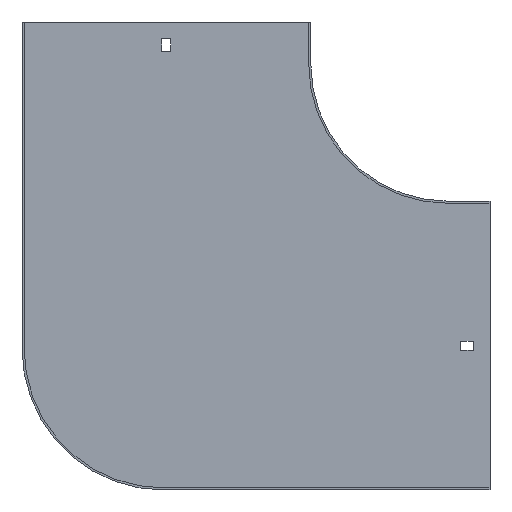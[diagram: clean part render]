
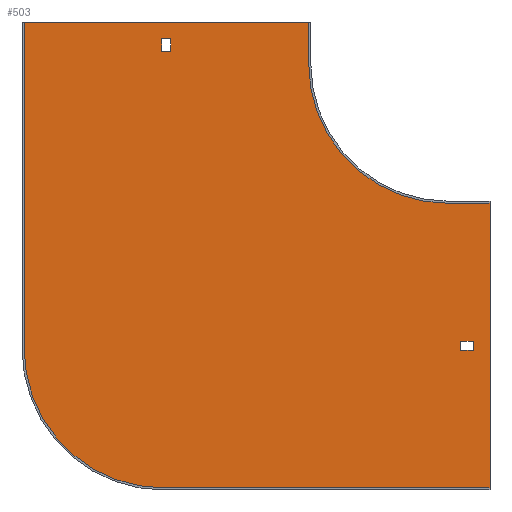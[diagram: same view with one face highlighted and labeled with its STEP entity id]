
A CAD part, front view. The second image highlights one B-rep face of the part: STEP entity #503.
In plain terms, the highlighted planar face has unit normal (0, -1, 0).
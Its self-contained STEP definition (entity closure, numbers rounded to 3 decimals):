
#6 = EDGE_CURVE ( 'NONE', #360, #702, #221, .T. ) ;
#18 = ORIENTED_EDGE ( 'NONE', *, *, #346, .T. ) ;
#29 = VERTEX_POINT ( 'NONE', #58 ) ;
#34 = VERTEX_POINT ( 'NONE', #779 ) ;
#37 = EDGE_CURVE ( 'NONE', #861, #521, #113, .T. ) ;
#39 = ORIENTED_EDGE ( 'NONE', *, *, #659, .F. ) ;
#41 = EDGE_CURVE ( 'NONE', #597, #861, #153, .T. ) ;
#48 = LINE ( 'NONE', #581, #718 ) ;
#56 = DIRECTION ( 'NONE',  ( 1., 0., 0. ) ) ;
#58 = CARTESIAN_POINT ( 'NONE',  ( -204., -1.5, -304. ) ) ;
#65 = ORIENTED_EDGE ( 'NONE', *, *, #569, .F. ) ;
#66 = EDGE_LOOP ( 'NONE', ( #616, #88, #293, #332 ) ) ;
#76 = DIRECTION ( 'NONE',  ( 0., 0., 1. ) ) ;
#88 = ORIENTED_EDGE ( 'NONE', *, *, #619, .F. ) ;
#90 = CARTESIAN_POINT ( 'NONE',  ( -305.5, -1.5, 30. ) ) ;
#96 = ORIENTED_EDGE ( 'NONE', *, *, #37, .F. ) ;
#107 = DIRECTION ( 'NONE',  ( 0., 0., -1. ) ) ;
#110 = VECTOR ( 'NONE', #76, 1000. ) ;
#113 = LINE ( 'NONE', #838, #774 ) ;
#135 = VERTEX_POINT ( 'NONE', #804 ) ;
#142 = DIRECTION ( 'NONE',  ( 1., 0., 0. ) ) ;
#153 = CIRCLE ( 'NONE', #183, 100. ) ;
#171 = DIRECTION ( 'NONE',  ( 0., 0., -1. ) ) ;
#177 = EDGE_CURVE ( 'NONE', #135, #34, #180, .T. ) ;
#180 = LINE ( 'NONE', #707, #478 ) ;
#182 = DIRECTION ( 'NONE',  ( 0., -1., 0. ) ) ;
#183 = AXIS2_PLACEMENT_3D ( 'NONE', #713, #182, #171 ) ;
#186 = EDGE_CURVE ( 'NONE', #34, #549, #710, .T. ) ;
#197 = CARTESIAN_POINT ( 'NONE',  ( 30., -1.5, -304. ) ) ;
#200 = LINE ( 'NONE', #604, #315 ) ;
#216 = VERTEX_POINT ( 'NONE', #509 ) ;
#220 = EDGE_CURVE ( 'NONE', #702, #597, #48, .T. ) ;
#221 = LINE ( 'NONE', #90, #422 ) ;
#226 = VERTEX_POINT ( 'NONE', #520 ) ;
#235 = CARTESIAN_POINT ( 'NONE',  ( 9., -1.5, 0. ) ) ;
#238 = DIRECTION ( 'NONE',  ( 1., 0., 0. ) ) ;
#254 = DIRECTION ( 'NONE',  ( 0., 0., -1. ) ) ;
#257 = LINE ( 'NONE', #262, #401 ) ;
#262 = CARTESIAN_POINT ( 'NONE',  ( -198.75, -1.5, 0. ) ) ;
#267 = ORIENTED_EDGE ( 'NONE', *, *, #562, .F. ) ;
#269 = LINE ( 'NONE', #197, #489 ) ;
#283 = VERTEX_POINT ( 'NONE', #801 ) ;
#285 = EDGE_LOOP ( 'NONE', ( #607, #65, #39, #830, #267, #96, #551, #807 ) ) ;
#286 = DIRECTION ( 'NONE',  ( 0., 1., 0. ) ) ;
#293 = ORIENTED_EDGE ( 'NONE', *, *, #723, .F. ) ;
#296 = VERTEX_POINT ( 'NONE', #603 ) ;
#304 = CARTESIAN_POINT ( 'NONE',  ( 30., -1.5, -100. ) ) ;
#315 = VECTOR ( 'NONE', #820, 1000. ) ;
#320 = LINE ( 'NONE', #476, #555 ) ;
#332 = ORIENTED_EDGE ( 'NONE', *, *, #186, .F. ) ;
#346 = EDGE_CURVE ( 'NONE', #283, #296, #685, .T. ) ;
#348 = CARTESIAN_POINT ( 'NONE',  ( 0., -1.5, 18. ) ) ;
#351 = CARTESIAN_POINT ( 'NONE',  ( -205.25, -1.5, 0. ) ) ;
#360 = VERTEX_POINT ( 'NONE', #827 ) ;
#372 = DIRECTION ( 'NONE',  ( 0., 0., -1. ) ) ;
#373 = FACE_BOUND ( 'NONE', #66, .T. ) ;
#375 = ORIENTED_EDGE ( 'NONE', *, *, #738, .T. ) ;
#378 = FACE_OUTER_BOUND ( 'NONE', #285, .T. ) ;
#383 = DIRECTION ( 'NONE',  ( 0., 0., -1. ) ) ;
#388 = AXIS2_PLACEMENT_3D ( 'NONE', #490, #286, #613 ) ;
#401 = VECTOR ( 'NONE', #383, 1000. ) ;
#404 = DIRECTION ( 'NONE',  ( 0., 0., -1. ) ) ;
#422 = VECTOR ( 'NONE', #493, 1000. ) ;
#438 = CARTESIAN_POINT ( 'NONE',  ( 9., -1.5, -205.25 ) ) ;
#447 = AXIS2_PLACEMENT_3D ( 'NONE', #628, #633, #107 ) ;
#462 = LINE ( 'NONE', #745, #110 ) ;
#476 = CARTESIAN_POINT ( 'NONE',  ( 30., -1.5, -98.5 ) ) ;
#478 = VECTOR ( 'NONE', #636, 1000. ) ;
#489 = VECTOR ( 'NONE', #794, 1000. ) ;
#490 = CARTESIAN_POINT ( 'NONE',  ( -204., -1.5, -204. ) ) ;
#493 = DIRECTION ( 'NONE',  ( 1., 0., 0. ) ) ;
#503 = ADVANCED_FACE ( 'NONE', ( #373, #378, #724 ), #643, .T. ) ;
#509 = CARTESIAN_POINT ( 'NONE',  ( 30., -1.5, -304. ) ) ;
#518 = VECTOR ( 'NONE', #692, 1000. ) ;
#520 = CARTESIAN_POINT ( 'NONE',  ( -198.75, -1.5, 18. ) ) ;
#521 = VERTEX_POINT ( 'NONE', #304 ) ;
#522 = CARTESIAN_POINT ( 'NONE',  ( 18., -1.5, -205.25 ) ) ;
#526 = DIRECTION ( 'NONE',  ( -1., 0., 0. ) ) ;
#542 = VECTOR ( 'NONE', #56, 1000. ) ;
#549 = VERTEX_POINT ( 'NONE', #438 ) ;
#551 = ORIENTED_EDGE ( 'NONE', *, *, #41, .F. ) ;
#555 = VECTOR ( 'NONE', #404, 1000. ) ;
#557 = EDGE_CURVE ( 'NONE', #216, #29, #269, .T. ) ;
#562 = EDGE_CURVE ( 'NONE', #521, #216, #320, .T. ) ;
#569 = EDGE_CURVE ( 'NONE', #839, #360, #462, .T. ) ;
#581 = CARTESIAN_POINT ( 'NONE',  ( -100., -1.5, 30. ) ) ;
#587 = CIRCLE ( 'NONE', #388, 100. ) ;
#595 = CARTESIAN_POINT ( 'NONE',  ( -100., -1.5, 30. ) ) ;
#597 = VERTEX_POINT ( 'NONE', #663 ) ;
#603 = CARTESIAN_POINT ( 'NONE',  ( -205.25, -1.5, 18. ) ) ;
#604 = CARTESIAN_POINT ( 'NONE',  ( 18., -1.5, 0. ) ) ;
#607 = ORIENTED_EDGE ( 'NONE', *, *, #6, .F. ) ;
#613 = DIRECTION ( 'NONE',  ( 0., 0., -1. ) ) ;
#616 = ORIENTED_EDGE ( 'NONE', *, *, #177, .F. ) ;
#619 = EDGE_CURVE ( 'NONE', #764, #135, #200, .T. ) ;
#624 = VECTOR ( 'NONE', #526, 1000. ) ;
#628 = CARTESIAN_POINT ( 'NONE',  ( 0., -1.5, 0. ) ) ;
#633 = DIRECTION ( 'NONE',  ( 0., -1., 0. ) ) ;
#636 = DIRECTION ( 'NONE',  ( -1., 0., 0. ) ) ;
#643 = PLANE ( 'NONE',  #447 ) ;
#646 = LINE ( 'NONE', #849, #624 ) ;
#649 = EDGE_CURVE ( 'NONE', #296, #226, #682, .T. ) ;
#652 = CARTESIAN_POINT ( 'NONE',  ( 0., -1.5, -205.25 ) ) ;
#658 = ORIENTED_EDGE ( 'NONE', *, *, #649, .T. ) ;
#659 = EDGE_CURVE ( 'NONE', #29, #839, #587, .T. ) ;
#661 = LINE ( 'NONE', #652, #542 ) ;
#662 = EDGE_LOOP ( 'NONE', ( #658, #375, #698, #18 ) ) ;
#663 = CARTESIAN_POINT ( 'NONE',  ( -100., -1.5, 0. ) ) ;
#670 = CARTESIAN_POINT ( 'NONE',  ( 0., -1.5, -100. ) ) ;
#682 = LINE ( 'NONE', #348, #809 ) ;
#685 = LINE ( 'NONE', #351, #518 ) ;
#692 = DIRECTION ( 'NONE',  ( 0., 0., 1. ) ) ;
#698 = ORIENTED_EDGE ( 'NONE', *, *, #748, .T. ) ;
#702 = VERTEX_POINT ( 'NONE', #595 ) ;
#707 = CARTESIAN_POINT ( 'NONE',  ( 0., -1.5, -198.75 ) ) ;
#710 = LINE ( 'NONE', #235, #734 ) ;
#713 = CARTESIAN_POINT ( 'NONE',  ( 0., -1.5, 0. ) ) ;
#718 = VECTOR ( 'NONE', #254, 1000. ) ;
#723 = EDGE_CURVE ( 'NONE', #549, #764, #661, .T. ) ;
#724 = FACE_BOUND ( 'NONE', #662, .T. ) ;
#734 = VECTOR ( 'NONE', #372, 1000. ) ;
#736 = VERTEX_POINT ( 'NONE', #858 ) ;
#738 = EDGE_CURVE ( 'NONE', #226, #736, #257, .T. ) ;
#745 = CARTESIAN_POINT ( 'NONE',  ( -304., -1.5, -204. ) ) ;
#748 = EDGE_CURVE ( 'NONE', #736, #283, #646, .T. ) ;
#764 = VERTEX_POINT ( 'NONE', #522 ) ;
#774 = VECTOR ( 'NONE', #238, 1000. ) ;
#779 = CARTESIAN_POINT ( 'NONE',  ( 9., -1.5, -198.75 ) ) ;
#794 = DIRECTION ( 'NONE',  ( -1., 0., 0. ) ) ;
#801 = CARTESIAN_POINT ( 'NONE',  ( -205.25, -1.5, 9. ) ) ;
#804 = CARTESIAN_POINT ( 'NONE',  ( 18., -1.5, -198.75 ) ) ;
#805 = CARTESIAN_POINT ( 'NONE',  ( -304., -1.5, -204. ) ) ;
#807 = ORIENTED_EDGE ( 'NONE', *, *, #220, .F. ) ;
#809 = VECTOR ( 'NONE', #142, 1000. ) ;
#820 = DIRECTION ( 'NONE',  ( 0., 0., 1. ) ) ;
#827 = CARTESIAN_POINT ( 'NONE',  ( -304., -1.5, 30. ) ) ;
#830 = ORIENTED_EDGE ( 'NONE', *, *, #557, .F. ) ;
#838 = CARTESIAN_POINT ( 'NONE',  ( 0., -1.5, -100. ) ) ;
#839 = VERTEX_POINT ( 'NONE', #805 ) ;
#849 = CARTESIAN_POINT ( 'NONE',  ( 0., -1.5, 9. ) ) ;
#858 = CARTESIAN_POINT ( 'NONE',  ( -198.75, -1.5, 9. ) ) ;
#861 = VERTEX_POINT ( 'NONE', #670 ) ;
